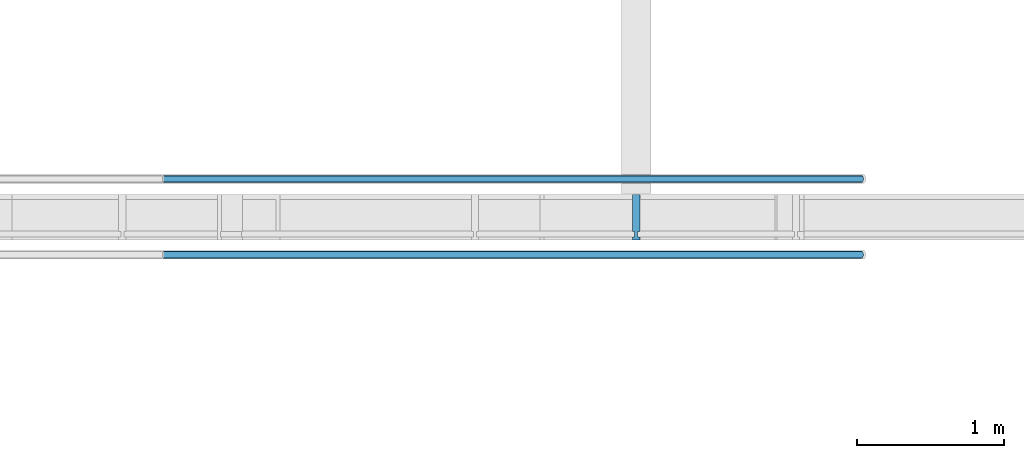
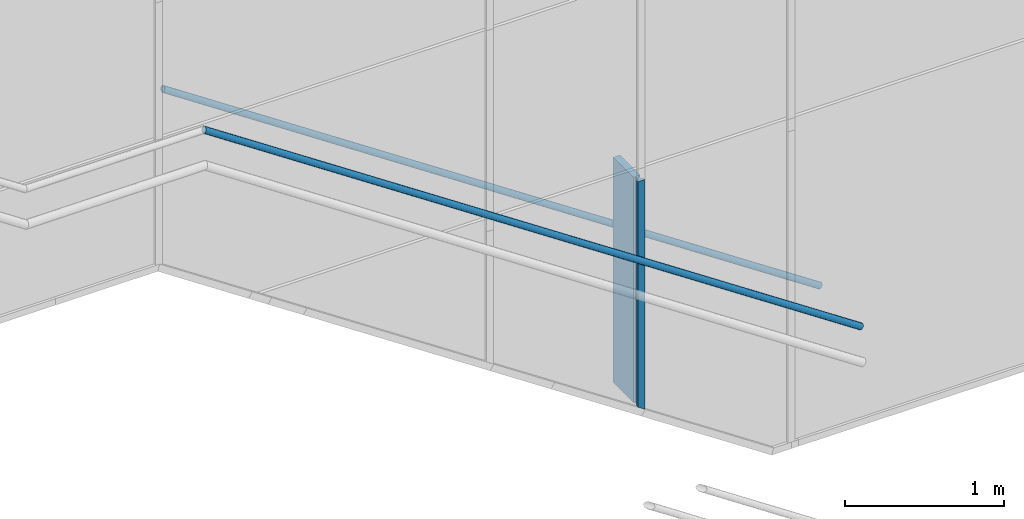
# One storey, part 17 of 137: 3 members, 3 elements without a shape of their own.
"""IFC2X3 building model written with IfcOpenShell, lengths in millimetres."""

from ifc_helpers import new_model, entity, si_unit, converted_unit, derived_unit, money_unit, direction, frame, origin_with_axes, place, context, subcontext, project, spatial, faceted_brep, material, type_object, element, aggregate, save


model = new_model("IFC2X3")

# Units and contexts
model_context = context("Model", 3, precision=0.01, world=origin_with_axes(), true_north=direction((0.0, 1.0)))
body_context = subcontext(model_context, "Body", "Model", "MODEL_VIEW")
ifc_project = project(units=[si_unit("LENGTHUNIT", "METRE", prefix="MILLI"), si_unit("AREAUNIT", "SQUARE_METRE"), si_unit("VOLUMEUNIT", "CUBIC_METRE"), converted_unit("PLANEANGLEUNIT", "DEGREE", entity("IfcPlaneAngleMeasure", 0.0174532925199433), si_unit("PLANEANGLEUNIT", "RADIAN"), dimensions=[0, 0, 0, 0, 0, 0, 0]), money_unit("EUR"), converted_unit("TIMEUNIT", "Year", entity("IfcTimeMeasure", 31556926.0), si_unit("TIMEUNIT", "SECOND"), dimensions=[0, 0, 1, 0, 0, 0, 0]), si_unit("MASSUNIT", "GRAM", prefix="KILO"), si_unit("THERMODYNAMICTEMPERATUREUNIT", "DEGREE_CELSIUS"), si_unit("LUMINOUSINTENSITYUNIT", "LUMEN"), si_unit("ENERGYUNIT", "JOULE", prefix="MEGA"), derived_unit("THERMALCONDUCTANCEUNIT", [(si_unit("POWERUNIT", "WATT"), 1), (si_unit("LENGTHUNIT", "METRE"), -1), (si_unit("THERMODYNAMICTEMPERATUREUNIT", "KELVIN"), -1)]), derived_unit("SPECIFICHEATCAPACITYUNIT", [(si_unit("ENERGYUNIT", "JOULE"), 1), (si_unit("MASSUNIT", "GRAM", prefix="KILO"), -1), (si_unit("THERMODYNAMICTEMPERATUREUNIT", "KELVIN"), -1)]), derived_unit("MASSDENSITYUNIT", [(si_unit("MASSUNIT", "GRAM", prefix="KILO"), 1), (si_unit("VOLUMEUNIT", "CUBIC_METRE"), -1)])], contexts=[model_context])

# Site, building, storey
site_placement = place(None, origin_with_axes())
site = spatial("IfcSite", under=ifc_project, at=site_placement, Name="Site", CompositionType="ELEMENT")
building_placement = place(site_placement, origin_with_axes())
building = spatial("IfcBuilding", under=site, at=building_placement, Name="Naam gebouw", CompositionType="ELEMENT")
storey_placement = place(building_placement, frame((0.0, 0.0, 3960.0), z_axis=(0.0, 0.0, 1.0), x_axis=(1.0, 0.0, 0.0)))
storey = spatial("IfcBuildingStorey", under=building, at=storey_placement, Name="1e verdieping", CompositionType="ELEMENT", Elevation=3960.0)

# Railing, member
railing_type = type_object("IfcRailingType", Name="Railing Type", PredefinedType="NOTDEFINED")
railing_1_placement = place(storey_placement, frame((18789.99987047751, 4162.49999999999, -4086.699999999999), z_axis=(0.0, 0.0, 1.0), x_axis=(1.0, 0.0, 0.0)))
railing_1 = element("IfcRailing", 1, at=railing_1_placement, inside=storey, type_object=railing_type, Name="34_Reling-x", PredefinedType="NOTDEFINED")
ifc_material_1 = material(Name="Metaal - RVS")
member_type_1 = type_object("IfcMemberType", Name="IfcMember", PredefinedType="USERDEFINED")
member_1_placement = place(railing_1_placement, frame((-1929.992462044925, -99.99999999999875, 945.9989583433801), z_axis=(0.0, 0.0, 1.0), x_axis=(1.0, 0.0, 0.0)))
member_1 = element("IfcMember", 2, at=member_1_placement, type_object=member_type_1, material=ifc_material_1, Name="h3 Staal legeringen_", context=body_context, shape_type="Brep", body=[
    faceted_brep([(2376.611528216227, -24.15000000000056, 33.90702704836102), (2378.937720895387, -23.78310723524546, 37.39631606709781), (-2396.049848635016, -23.78310723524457, 3220.721362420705), (-2397.319569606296, -24.14999999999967, 3216.527758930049), (2374.285335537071, -23.78310723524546, 30.41773802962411), (2372.02982304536, -22.6935767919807, 27.03446929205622), (2369.91352334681, -20.9145135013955, 23.86001974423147), (2368.000739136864, -18.49997330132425, 20.99084342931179), (2366.349589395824, -15.52332077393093, 18.51411881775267), (2365.010243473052, -12.07500000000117, 16.50509993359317), (2364.023396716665, -8.259786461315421, 15.02482979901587), (2363.419033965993, -4.193603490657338, 14.11828567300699), (2363.215518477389, 0.0, 13.81301244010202), (2363.419033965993, 4.193603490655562, 14.11828567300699), (2364.023396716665, 8.259786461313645, 15.02482979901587), (2365.010243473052, 12.07499999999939, 16.50509993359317), (2366.349589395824, 15.52332077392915, 18.51411881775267), (2368.000739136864, 18.49997330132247, 20.99084342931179), (2369.91352334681, 20.91451350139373, 23.86001974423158), (2372.02982304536, 22.69357679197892, 27.03446929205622), (2374.285335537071, 23.78310723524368, 30.41773802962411), (2376.611528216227, 24.14999999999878, 33.90702704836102), (2378.937720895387, 23.78310723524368, 37.39631606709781), (2381.193233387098, 22.69357679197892, 40.77958480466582), (2383.309533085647, 20.91451350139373, 43.95403435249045), (2385.222317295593, 18.49997330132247, 46.82321066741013), (2386.873467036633, 15.52332077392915, 49.29993527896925), (2388.212812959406, 12.07499999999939, 51.30895416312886), (2389.199659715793, 8.259786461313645, 52.78922429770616), (2389.804022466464, 4.193603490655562, 53.69576842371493), (2390.007537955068, 0.0, 54.0010416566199), (2389.804022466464, -4.193603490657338, 53.69576842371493), (2389.199659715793, -8.259786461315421, 52.78922429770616), (2388.212812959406, -12.07500000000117, 51.30895416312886), (2386.873467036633, -15.52332077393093, 49.29993527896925), (2385.222317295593, -18.49997330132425, 46.82321066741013), (2383.309533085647, -20.9145135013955, 43.95403435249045), (2381.193233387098, -22.6935767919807, 40.77958480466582), (-2394.818707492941, -22.69357679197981, 3224.787545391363), (-2393.663553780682, -20.91451350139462, 3228.602758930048), (-2392.61948625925, -18.49997330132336, 3232.051079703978), (-2391.718228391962, -15.52332077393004, 3235.027732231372), (-2390.987164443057, -12.07500000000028, 3237.442272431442), (-2390.448507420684, -8.259786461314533, 3239.221335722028), (-2390.118624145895, -4.19360349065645, 3240.310866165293), (-2390.007537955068, 0.0, 3240.677758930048), (-2390.118624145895, 4.19360349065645, 3240.310866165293), (-2390.448507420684, 8.259786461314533, 3239.221335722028), (-2390.987164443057, 12.07500000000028, 3237.442272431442), (-2391.718228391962, 15.52332077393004, 3235.027732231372), (-2392.61948625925, 18.49997330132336, 3232.051079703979), (-2393.663553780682, 20.91451350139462, 3228.602758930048), (-2394.818707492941, 22.69357679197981, 3224.787545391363), (-2396.049848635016, 23.78310723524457, 3220.721362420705), (-2397.319569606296, 24.14999999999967, 3216.527758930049), (-2398.589290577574, 23.78310723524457, 3212.334155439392), (-2399.820431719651, 22.69357679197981, 3208.267972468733), (-2400.975585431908, 20.91451350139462, 3204.452758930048), (-2402.01965295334, 18.49997330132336, 3201.004438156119), (-2402.92091082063, 15.52332077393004, 3198.027785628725), (-2403.651974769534, 12.07500000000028, 3195.613245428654), (-2404.190631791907, 8.259786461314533, 3193.834182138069), (-2404.520515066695, 4.19360349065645, 3192.744651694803), (-2404.631601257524, 0.0, 3192.377758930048), (-2404.520515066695, -4.19360349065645, 3192.744651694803), (-2404.190631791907, -8.259786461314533, 3193.834182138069), (-2403.651974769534, -12.07500000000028, 3195.613245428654), (-2402.92091082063, -15.52332077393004, 3198.027785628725), (-2402.01965295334, -18.49997330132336, 3201.004438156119), (-2400.975585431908, -20.91451350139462, 3204.452758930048), (-2399.820431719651, -22.69357679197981, 3208.267972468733), (-2398.589290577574, -23.78310723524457, 3212.334155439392)], [[[0, 1, 2, 3]], [[0, 4, 5, 6, 7, 8, 9, 10, 11, 12, 13, 14, 15, 16, 17, 18, 19, 20, 21, 22, 23, 24, 25, 26, 27, 28, 29, 30, 31, 32, 33, 34, 35, 36, 37, 1]], [[1, 37, 38, 2]], [[3, 2, 38, 39, 40, 41, 42, 43, 44, 45, 46, 47, 48, 49, 50, 51, 52, 53, 54, 55, 56, 57, 58, 59, 60, 61, 62, 63, 64, 65, 66, 67, 68, 69, 70, 71]], [[4, 0, 3, 71]], [[5, 4, 71, 70]], [[6, 5, 70, 69]], [[7, 6, 69, 68]], [[8, 7, 68, 67]], [[9, 8, 67, 66]], [[10, 9, 66, 65]], [[11, 10, 65, 64]], [[12, 11, 64, 63]], [[13, 12, 63, 62]], [[14, 13, 62, 61]], [[15, 14, 61, 60]], [[16, 15, 60, 59]], [[17, 16, 59, 58]], [[18, 17, 58, 57]], [[19, 18, 57, 56]], [[20, 19, 56, 55]], [[21, 20, 55, 54]], [[22, 21, 54, 53]], [[23, 22, 53, 52]], [[24, 23, 52, 51]], [[25, 24, 51, 50]], [[26, 25, 50, 49]], [[27, 26, 49, 48]], [[28, 27, 48, 47]], [[29, 28, 47, 46]], [[30, 29, 46, 45]], [[31, 30, 45, 44]], [[32, 31, 44, 43]], [[33, 32, 43, 42]], [[34, 33, 42, 41]], [[35, 34, 41, 40]], [[36, 35, 40, 39]], [[37, 36, 39, 38]]]),
])
aggregate(railing_1, [member_1])

railing_2_placement = place(storey_placement, frame((18789.99987047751, 4479.999999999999, -4086.699999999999), z_axis=(0.0, 0.0, 1.0), x_axis=(1.0, 0.0, 0.0)))
railing_2 = element("IfcRailing", 3, at=railing_2_placement, inside=storey, type_object=railing_type, Name="34_Reling-x", PredefinedType="NOTDEFINED")
member_2_placement = place(railing_2_placement, frame((-1929.992462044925, 99.99999999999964, 945.9989583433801), z_axis=(0.0, 0.0, 1.0), x_axis=(1.0, 0.0, 0.0)))
member_2 = element("IfcMember", 4, at=member_2_placement, type_object=member_type_1, material=ifc_material_1, Name="h3 Staal legeringen_", context=body_context, shape_type="Brep", body=[
    faceted_brep([(2376.611528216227, -24.14999999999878, 33.90702704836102), (2378.937720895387, -23.78310723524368, 37.39631606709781), (-2396.049848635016, -23.78310723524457, 3220.721362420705), (-2397.319569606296, -24.14999999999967, 3216.527758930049), (2374.285335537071, -23.78310723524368, 30.41773802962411), (2372.02982304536, -22.69357679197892, 27.03446929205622), (2369.91352334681, -20.91451350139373, 23.86001974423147), (2368.000739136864, -18.49997330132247, 20.99084342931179), (2366.349589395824, -15.52332077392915, 18.51411881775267), (2365.010243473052, -12.07499999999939, 16.50509993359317), (2364.023396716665, -8.259786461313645, 15.02482979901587), (2363.419033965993, -4.193603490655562, 14.11828567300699), (2363.215518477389, 0.0, 13.81301244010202), (2363.419033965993, 4.193603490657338, 14.11828567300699), (2364.023396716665, 8.259786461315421, 15.02482979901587), (2365.010243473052, 12.07500000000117, 16.50509993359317), (2366.349589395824, 15.52332077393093, 18.51411881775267), (2368.000739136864, 18.49997330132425, 20.99084342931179), (2369.91352334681, 20.9145135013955, 23.86001974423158), (2372.02982304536, 22.6935767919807, 27.03446929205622), (2374.285335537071, 23.78310723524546, 30.41773802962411), (2376.611528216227, 24.15000000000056, 33.90702704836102), (2378.937720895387, 23.78310723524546, 37.39631606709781), (2381.193233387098, 22.6935767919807, 40.77958480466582), (2383.309533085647, 20.9145135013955, 43.95403435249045), (2385.222317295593, 18.49997330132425, 46.82321066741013), (2386.873467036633, 15.52332077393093, 49.29993527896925), (2388.212812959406, 12.07500000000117, 51.30895416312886), (2389.199659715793, 8.259786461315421, 52.78922429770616), (2389.804022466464, 4.193603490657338, 53.69576842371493), (2390.007537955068, 0.0, 54.0010416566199), (2389.804022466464, -4.193603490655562, 53.69576842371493), (2389.199659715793, -8.259786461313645, 52.78922429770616), (2388.212812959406, -12.07499999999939, 51.30895416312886), (2386.873467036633, -15.52332077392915, 49.29993527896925), (2385.222317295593, -18.49997330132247, 46.82321066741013), (2383.309533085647, -20.91451350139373, 43.95403435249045), (2381.193233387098, -22.69357679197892, 40.77958480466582), (-2394.818707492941, -22.69357679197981, 3224.787545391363), (-2393.663553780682, -20.91451350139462, 3228.602758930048), (-2392.61948625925, -18.49997330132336, 3232.051079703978), (-2391.718228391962, -15.52332077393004, 3235.027732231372), (-2390.987164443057, -12.07500000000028, 3237.442272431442), (-2390.448507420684, -8.259786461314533, 3239.221335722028), (-2390.118624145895, -4.19360349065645, 3240.310866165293), (-2390.007537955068, 0.0, 3240.677758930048), (-2390.118624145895, 4.19360349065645, 3240.310866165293), (-2390.448507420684, 8.259786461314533, 3239.221335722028), (-2390.987164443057, 12.07500000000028, 3237.442272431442), (-2391.718228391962, 15.52332077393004, 3235.027732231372), (-2392.61948625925, 18.49997330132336, 3232.051079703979), (-2393.663553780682, 20.91451350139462, 3228.602758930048), (-2394.818707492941, 22.69357679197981, 3224.787545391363), (-2396.049848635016, 23.78310723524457, 3220.721362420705), (-2397.319569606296, 24.14999999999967, 3216.527758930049), (-2398.589290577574, 23.78310723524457, 3212.334155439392), (-2399.820431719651, 22.69357679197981, 3208.267972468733), (-2400.975585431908, 20.91451350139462, 3204.452758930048), (-2402.01965295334, 18.49997330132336, 3201.004438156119), (-2402.92091082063, 15.52332077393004, 3198.027785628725), (-2403.651974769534, 12.07500000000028, 3195.613245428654), (-2404.190631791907, 8.259786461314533, 3193.834182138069), (-2404.520515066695, 4.19360349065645, 3192.744651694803), (-2404.631601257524, 0.0, 3192.377758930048), (-2404.520515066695, -4.19360349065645, 3192.744651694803), (-2404.190631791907, -8.259786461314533, 3193.834182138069), (-2403.651974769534, -12.07500000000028, 3195.613245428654), (-2402.92091082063, -15.52332077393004, 3198.027785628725), (-2402.01965295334, -18.49997330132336, 3201.004438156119), (-2400.975585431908, -20.91451350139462, 3204.452758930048), (-2399.820431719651, -22.69357679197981, 3208.267972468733), (-2398.589290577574, -23.78310723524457, 3212.334155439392)], [[[0, 1, 2, 3]], [[0, 4, 5, 6, 7, 8, 9, 10, 11, 12, 13, 14, 15, 16, 17, 18, 19, 20, 21, 22, 23, 24, 25, 26, 27, 28, 29, 30, 31, 32, 33, 34, 35, 36, 37, 1]], [[1, 37, 38, 2]], [[3, 2, 38, 39, 40, 41, 42, 43, 44, 45, 46, 47, 48, 49, 50, 51, 52, 53, 54, 55, 56, 57, 58, 59, 60, 61, 62, 63, 64, 65, 66, 67, 68, 69, 70, 71]], [[4, 0, 3, 71]], [[5, 4, 71, 70]], [[6, 5, 70, 69]], [[7, 6, 69, 68]], [[8, 7, 68, 67]], [[9, 8, 67, 66]], [[10, 9, 66, 65]], [[11, 10, 65, 64]], [[12, 11, 64, 63]], [[13, 12, 63, 62]], [[14, 13, 62, 61]], [[15, 14, 61, 60]], [[16, 15, 60, 59]], [[17, 16, 59, 58]], [[18, 17, 58, 57]], [[19, 18, 57, 56]], [[20, 19, 56, 55]], [[21, 20, 55, 54]], [[22, 21, 54, 53]], [[23, 22, 53, 52]], [[24, 23, 52, 51]], [[25, 24, 51, 50]], [[26, 25, 50, 49]], [[27, 26, 49, 48]], [[28, 27, 48, 47]], [[29, 28, 47, 46]], [[30, 29, 46, 45]], [[31, 30, 45, 44]], [[32, 31, 44, 43]], [[33, 32, 43, 42]], [[34, 33, 42, 41]], [[35, 34, 41, 40]], [[36, 35, 40, 39]], [[37, 36, 39, 38]]]),
])
aggregate(railing_2, [member_2])

# Curtain wall, member
curtain_wall_type = type_object("IfcCurtainWallType", Name="Curtain Wall Type", PredefinedType="NOTDEFINED")
curtain_wall_placement = place(storey_placement, frame((8473.014787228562, 4364.43626274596, -3949.999921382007), z_axis=(0.0, 0.0, 1.0), x_axis=(1.0, 0.0, 0.0)))
curtain_wall = element("IfcCurtainWall", 5, at=curtain_wall_placement, inside=storey, type_object=curtain_wall_type, Name="21_Vliesgevel-x")
ifc_material_2 = material(Name="Metaal - Staal AFW")
member_type_2 = type_object("IfcMemberType", Name="50 x 313", PredefinedType="MULLION")
member_3_placement = place(curtain_wall_placement, frame((9226.979721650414, -161.4362627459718, 631.2872051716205), z_axis=(1.452401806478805e-08, 0.0, 0.9999999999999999), x_axis=(-0.9999999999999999, 0.0, 1.452401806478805e-08)))
member_3 = element("IfcMember", 6, at=member_3_placement, type_object=member_type_2, material=ifc_material_2, Name="h METAAL_Kader-x", ObjectType="MULLION", context=body_context, shape_type="Brep", body=[
    faceted_brep([(10.00000096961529, 20.99999999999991, 66.75918556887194), (10.00002626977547, 20.99999999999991, 1808.71256133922), (10.00002626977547, -17.4000000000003, 1808.71256133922), (10.00000096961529, -17.4000000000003, 66.75918556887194), (-9.99999922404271, 20.99999999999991, 53.42585369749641), (-9.999973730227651, 20.99999999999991, 1808.7125616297), (-9.999973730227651, -17.4000000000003, 1808.7125616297), (-9.99999922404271, -17.4000000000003, 53.42585369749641)], [[[0, 1, 2, 3]], [[4, 5, 1, 0]], [[2, 1, 5, 6]], [[3, 2, 6, 7]], [[3, 7, 4, 0]], [[7, 6, 5, 4]]]),
    faceted_brep([(25.00000111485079, -17.4000000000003, 76.7591844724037), (25.00002626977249, -17.4000000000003, 1808.712561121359), (25.00002626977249, -272.0000000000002, 1808.712561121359), (25.00000111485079, -272.0000000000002, 76.7591844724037), (-24.99999936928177, -17.4000000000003, 43.42585479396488), (-24.99997373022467, -17.4000000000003, 1808.71256184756), (-24.99997373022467, -272.0000000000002, 1808.71256184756), (-24.99999936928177, -272.0000000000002, 43.42585479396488)], [[[0, 1, 2, 3]], [[4, 5, 1, 0]], [[2, 1, 5, 6]], [[3, 2, 6, 7]], [[3, 7, 4, 0]], [[7, 6, 5, 4]]]),
    faceted_brep([(-24.99999936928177, 20.99999999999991, 43.42585479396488), (-24.99997373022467, 20.99999999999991, 1808.71256184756), (-24.99997373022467, 40.49999999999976, 1808.71256184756), (-24.99999936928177, 40.49999999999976, 43.42585479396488), (25.00000111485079, 20.99999999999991, 76.7591844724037), (25.00002626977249, 20.99999999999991, 1808.712561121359), (25.00002626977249, 40.49999999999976, 1808.712561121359), (25.00000111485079, 40.49999999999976, 76.7591844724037)], [[[0, 1, 2, 3]], [[4, 5, 1, 0]], [[2, 1, 5, 6]], [[3, 2, 6, 7]], [[3, 7, 4, 0]], [[7, 6, 5, 4]]]),
])
aggregate(curtain_wall, [member_3])

save(model, "model.ifc")
